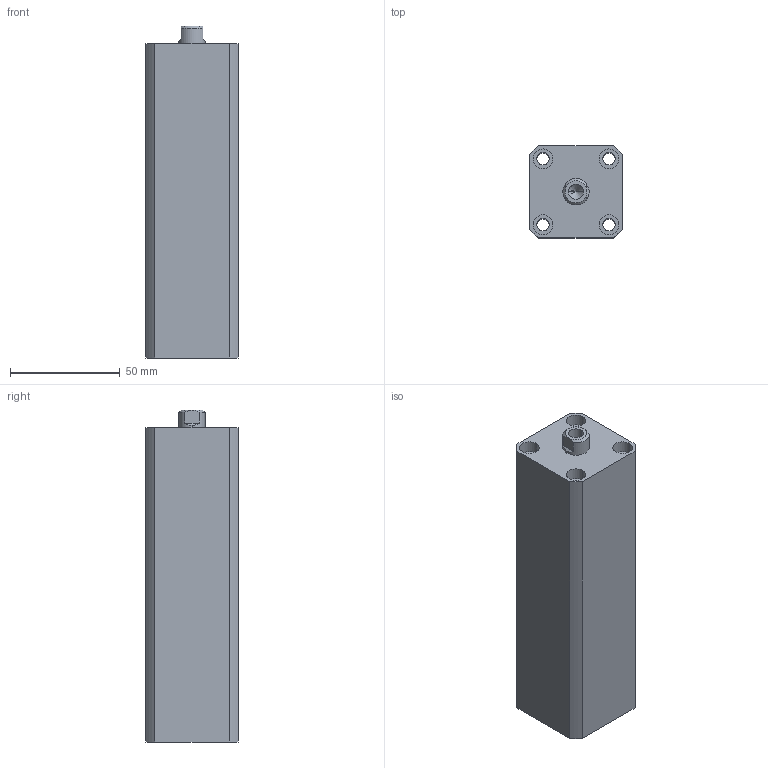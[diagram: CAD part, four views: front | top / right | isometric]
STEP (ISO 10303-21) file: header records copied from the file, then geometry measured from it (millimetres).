
FILE_DESCRIPTION (( 'STEP AP203' ), '1' );
FILE_NAME ('HTB-SDMB20-100N.STEP', '2019-10-09T00:11:34', ( '微软用户' ), ( '微软中国' ), 'SwSTEP 2.0', 'SolidWorks 2012', '' );
FILE_SCHEMA (( 'CONFIG_CONTROL_DESIGN' ));
Length unit declared in the file: millimetre
Products named in the file (3): HTB-SDMB20-100N; HTB-SDMB20-100N活塞杆; HTB-SDMB20-100掛极
Assembly tree (2 placements, depth 2):
  HTB-SDMB20-100N
    HTB-SDMB20-100掛极
    HTB-SDMB20-100N活塞杆
Bounding box: 42 x 42 x 151 mm (x, y, z)
Volume: 212051.5 mm3; surface area: 51717.3 mm2
Topology: 2 solids, 2 shells, 136 faces, 326 edges, 213 vertices
Faces by surface type: plane 64, cylinder 46, bspline 16, torus 6, cone 4
Entity records: 5023 total; most frequent: CARTESIAN_POINT 1570, ORIENTED_EDGE 648, DIRECTION 640, EDGE_CURVE 324, AXIS2_PLACEMENT_3D 231, VERTEX_POINT 213, LINE 178, VECTOR 178
